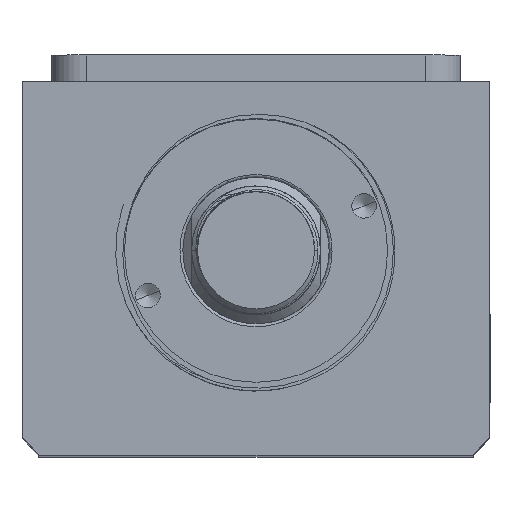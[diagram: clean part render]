
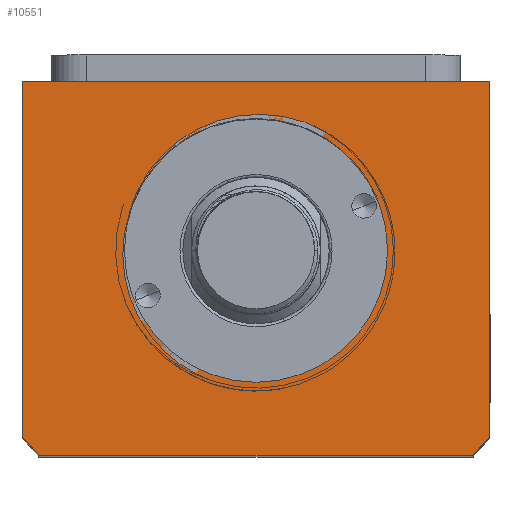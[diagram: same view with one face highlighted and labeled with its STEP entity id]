
A CAD part, top view. The second image highlights one B-rep face of the part: STEP entity #10551.
In plain terms, the highlighted planar face has unit normal (0, 0, 1).
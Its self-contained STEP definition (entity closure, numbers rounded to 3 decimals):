
#554 = VERTEX_POINT ( 'NONE', #5188 ) ;
#664 = AXIS2_PLACEMENT_3D ( 'NONE', #12480, #6070, #13556 ) ;
#743 = DIRECTION ( 'NONE',  ( 0., 0., 1. ) ) ;
#779 = EDGE_LOOP ( 'NONE', ( #3289, #2642, #12309, #10943, #3146, #10769 ) ) ;
#1026 = FACE_BOUND ( 'NONE', #11868, .T. ) ;
#1568 = VERTEX_POINT ( 'NONE', #11470 ) ;
#1578 = EDGE_CURVE ( 'NONE', #1568, #5313, #1854, .T. ) ;
#1675 = LINE ( 'NONE', #9875, #7098 ) ;
#1854 = LINE ( 'NONE', #13618, #12946 ) ;
#2314 = CARTESIAN_POINT ( 'NONE',  ( -37.094, -32., 155. ) ) ;
#2485 = EDGE_CURVE ( 'NONE', #5313, #7683, #12607, .T. ) ;
#2642 = ORIENTED_EDGE ( 'NONE', *, *, #4217, .T. ) ;
#2864 = LINE ( 'NONE', #11928, #8607 ) ;
#3146 = ORIENTED_EDGE ( 'NONE', *, *, #4031, .T. ) ;
#3289 = ORIENTED_EDGE ( 'NONE', *, *, #2485, .T. ) ;
#3584 = EDGE_CURVE ( 'NONE', #9716, #554, #1675, .T. ) ;
#3866 = CARTESIAN_POINT ( 'NONE',  ( 0., 3., 155. ) ) ;
#4031 = EDGE_CURVE ( 'NONE', #5298, #1568, #2864, .T. ) ;
#4047 = VECTOR ( 'NONE', #8140, 1000. ) ;
#4076 = AXIS2_PLACEMENT_3D ( 'NONE', #4660, #12156, #5749 ) ;
#4217 = EDGE_CURVE ( 'NONE', #7683, #9716, #12935, .T. ) ;
#4541 = CARTESIAN_POINT ( 'NONE',  ( 22.5, 3., 155. ) ) ;
#4591 = ORIENTED_EDGE ( 'NONE', *, *, #12840, .F. ) ;
#4660 = CARTESIAN_POINT ( 'NONE',  ( 0., 3., 155. ) ) ;
#4813 = CIRCLE ( 'NONE', #664, 51. ) ;
#4871 = AXIS2_PLACEMENT_3D ( 'NONE', #3866, #11376, #4966 ) ;
#4966 = DIRECTION ( 'NONE',  ( 1., 0., 0. ) ) ;
#5052 = DIRECTION ( 'NONE',  ( -1., 0., 0. ) ) ;
#5087 = DIRECTION ( 'NONE',  ( 1., 0., 0. ) ) ;
#5188 = CARTESIAN_POINT ( 'NONE',  ( 37.094, -32., 155. ) ) ;
#5298 = VERTEX_POINT ( 'NONE', #9111 ) ;
#5313 = VERTEX_POINT ( 'NONE', #7006 ) ;
#5749 = DIRECTION ( 'NONE',  ( 1., 0., 0. ) ) ;
#5967 = ORIENTED_EDGE ( 'NONE', *, *, #10508, .F. ) ;
#6018 = CARTESIAN_POINT ( 'NONE',  ( -40., 32., 155. ) ) ;
#6070 = DIRECTION ( 'NONE',  ( 0., 0., 1. ) ) ;
#6111 = CARTESIAN_POINT ( 'NONE',  ( -22.5, 3., 155. ) ) ;
#6596 = DIRECTION ( 'NONE',  ( 0., 1., 0. ) ) ;
#6878 = VERTEX_POINT ( 'NONE', #4541 ) ;
#7006 = CARTESIAN_POINT ( 'NONE',  ( -40., 32., 155. ) ) ;
#7098 = VECTOR ( 'NONE', #12009, 1000. ) ;
#7219 = CARTESIAN_POINT ( 'NONE',  ( 0., 3., 155. ) ) ;
#7683 = VERTEX_POINT ( 'NONE', #10948 ) ;
#8140 = DIRECTION ( 'NONE',  ( 0., -1., 0. ) ) ;
#8296 = DIRECTION ( 'NONE',  ( 1., 0., 0. ) ) ;
#8308 = AXIS2_PLACEMENT_3D ( 'NONE', #7219, #743, #8296 ) ;
#8607 = VECTOR ( 'NONE', #6596, 1000. ) ;
#8668 = VERTEX_POINT ( 'NONE', #6111 ) ;
#9111 = CARTESIAN_POINT ( 'NONE',  ( 40., -28.639, 155. ) ) ;
#9366 = CARTESIAN_POINT ( 'NONE',  ( 0., 0., 155. ) ) ;
#9690 = CIRCLE ( 'NONE', #4871, 22.5 ) ;
#9716 = VERTEX_POINT ( 'NONE', #2314 ) ;
#9875 = CARTESIAN_POINT ( 'NONE',  ( -40., -32., 155. ) ) ;
#9955 = CIRCLE ( 'NONE', #8308, 22.5 ) ;
#10508 = EDGE_CURVE ( 'NONE', #6878, #8668, #9955, .T. ) ;
#10551 = ADVANCED_FACE ( 'NONE', ( #1026, #13123 ), #13601, .T. ) ;
#10769 = ORIENTED_EDGE ( 'NONE', *, *, #1578, .T. ) ;
#10943 = ORIENTED_EDGE ( 'NONE', *, *, #13277, .T. ) ;
#10948 = CARTESIAN_POINT ( 'NONE',  ( -40., -28.639, 155. ) ) ;
#11155 = AXIS2_PLACEMENT_3D ( 'NONE', #9366, #11503, #5087 ) ;
#11376 = DIRECTION ( 'NONE',  ( 0., 0., 1. ) ) ;
#11470 = CARTESIAN_POINT ( 'NONE',  ( 40., 32., 155. ) ) ;
#11503 = DIRECTION ( 'NONE',  ( 0., 0., 1. ) ) ;
#11868 = EDGE_LOOP ( 'NONE', ( #5967, #4591 ) ) ;
#11928 = CARTESIAN_POINT ( 'NONE',  ( 40., 32., 155. ) ) ;
#12009 = DIRECTION ( 'NONE',  ( 1., 0., 0. ) ) ;
#12156 = DIRECTION ( 'NONE',  ( 0., 0., 1. ) ) ;
#12309 = ORIENTED_EDGE ( 'NONE', *, *, #3584, .T. ) ;
#12480 = CARTESIAN_POINT ( 'NONE',  ( 0., 3., 155. ) ) ;
#12607 = LINE ( 'NONE', #6018, #4047 ) ;
#12840 = EDGE_CURVE ( 'NONE', #8668, #6878, #9690, .T. ) ;
#12935 = CIRCLE ( 'NONE', #4076, 51. ) ;
#12946 = VECTOR ( 'NONE', #5052, 1000. ) ;
#13123 = FACE_OUTER_BOUND ( 'NONE', #779, .T. ) ;
#13277 = EDGE_CURVE ( 'NONE', #554, #5298, #4813, .T. ) ;
#13556 = DIRECTION ( 'NONE',  ( 1., 0., 0. ) ) ;
#13601 = PLANE ( 'NONE',  #11155 ) ;
#13618 = CARTESIAN_POINT ( 'NONE',  ( -40., 32., 155. ) ) ;
